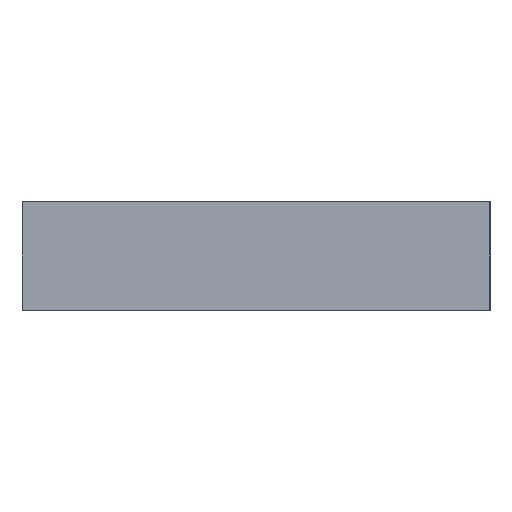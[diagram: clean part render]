
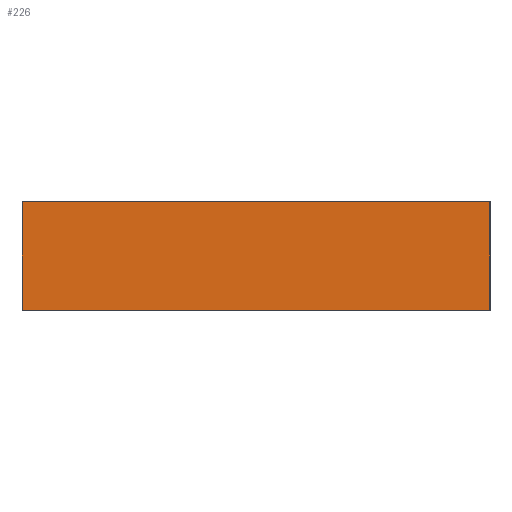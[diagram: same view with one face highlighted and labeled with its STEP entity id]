
A CAD part, left-side view. The second image highlights one B-rep face of the part: STEP entity #226.
In plain terms, the highlighted planar face has unit normal (-1, 0, 0).
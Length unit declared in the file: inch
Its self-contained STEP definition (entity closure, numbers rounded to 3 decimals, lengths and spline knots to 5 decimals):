
#226 = ADVANCED_FACE ( 'NONE', ( #13687 ), #17996, .F. ) ;
#296 = CARTESIAN_POINT ( 'NONE',  ( -25.875, 0., -2.65625 ) ) ;
#742 = DIRECTION ( 'NONE',  ( 0., 0., 1. ) ) ;
#745 = DIRECTION ( 'NONE',  ( 0., 1., 0. ) ) ;
#973 = EDGE_CURVE ( 'NONE', #1120, #1313, #14985, .T. ) ;
#1120 = VERTEX_POINT ( 'NONE', #12924 ) ;
#1313 = VERTEX_POINT ( 'NONE', #296 ) ;
#2335 = DIRECTION ( 'NONE',  ( 0., -1., 0. ) ) ;
#3631 = EDGE_CURVE ( 'NONE', #1120, #16873, #10999, .T. ) ;
#3781 = ORIENTED_EDGE ( 'NONE', *, *, #3631, .F. ) ;
#3849 = LINE ( 'NONE', #12803, #19393 ) ;
#3899 = LINE ( 'NONE', #11301, #12232 ) ;
#5483 = EDGE_CURVE ( 'NONE', #1313, #16220, #3849, .T. ) ;
#6224 = ORIENTED_EDGE ( 'NONE', *, *, #13773, .T. ) ;
#6294 = DIRECTION ( 'NONE',  ( 0., 0., 1. ) ) ;
#8124 = ORIENTED_EDGE ( 'NONE', *, *, #973, .T. ) ;
#8497 = EDGE_LOOP ( 'NONE', ( #18523, #6224, #3781, #8124 ) ) ;
#9089 = VECTOR ( 'NONE', #2335, 39.37008 ) ;
#9775 = CARTESIAN_POINT ( 'NONE',  ( -25.875, 22.9375, 2.65625 ) ) ;
#10999 = LINE ( 'NONE', #16979, #12547 ) ;
#11301 = CARTESIAN_POINT ( 'NONE',  ( -25.875, -0.56278, 2.65625 ) ) ;
#12232 = VECTOR ( 'NONE', #745, 39.37008 ) ;
#12547 = VECTOR ( 'NONE', #742, 39.37008 ) ;
#12803 = CARTESIAN_POINT ( 'NONE',  ( -25.875, 0., -2.65625 ) ) ;
#12924 = CARTESIAN_POINT ( 'NONE',  ( -25.875, 22.9375, -2.65625 ) ) ;
#13118 = AXIS2_PLACEMENT_3D ( 'NONE', #19367, #15251, #6294 ) ;
#13687 = FACE_OUTER_BOUND ( 'NONE', #8497, .T. ) ;
#13773 = EDGE_CURVE ( 'NONE', #16220, #16873, #3899, .T. ) ;
#14985 = LINE ( 'NONE', #17924, #9089 ) ;
#15129 = CARTESIAN_POINT ( 'NONE',  ( -25.875, 0., 2.65625 ) ) ;
#15251 = DIRECTION ( 'NONE',  ( 1., 0., 0. ) ) ;
#16220 = VERTEX_POINT ( 'NONE', #15129 ) ;
#16873 = VERTEX_POINT ( 'NONE', #9775 ) ;
#16979 = CARTESIAN_POINT ( 'NONE',  ( -25.875, 22.9375, -2.65625 ) ) ;
#17222 = DIRECTION ( 'NONE',  ( 0., 0., 1. ) ) ;
#17924 = CARTESIAN_POINT ( 'NONE',  ( -25.875, 75.7649, -2.65625 ) ) ;
#17996 = PLANE ( 'NONE',  #13118 ) ;
#18523 = ORIENTED_EDGE ( 'NONE', *, *, #5483, .T. ) ;
#19367 = CARTESIAN_POINT ( 'NONE',  ( -25.875, 0., -2.65625 ) ) ;
#19393 = VECTOR ( 'NONE', #17222, 39.37008 ) ;
